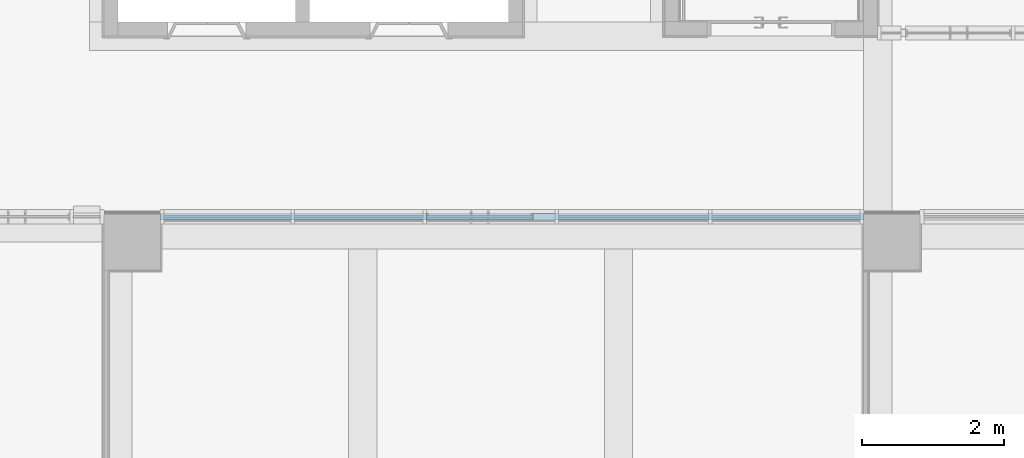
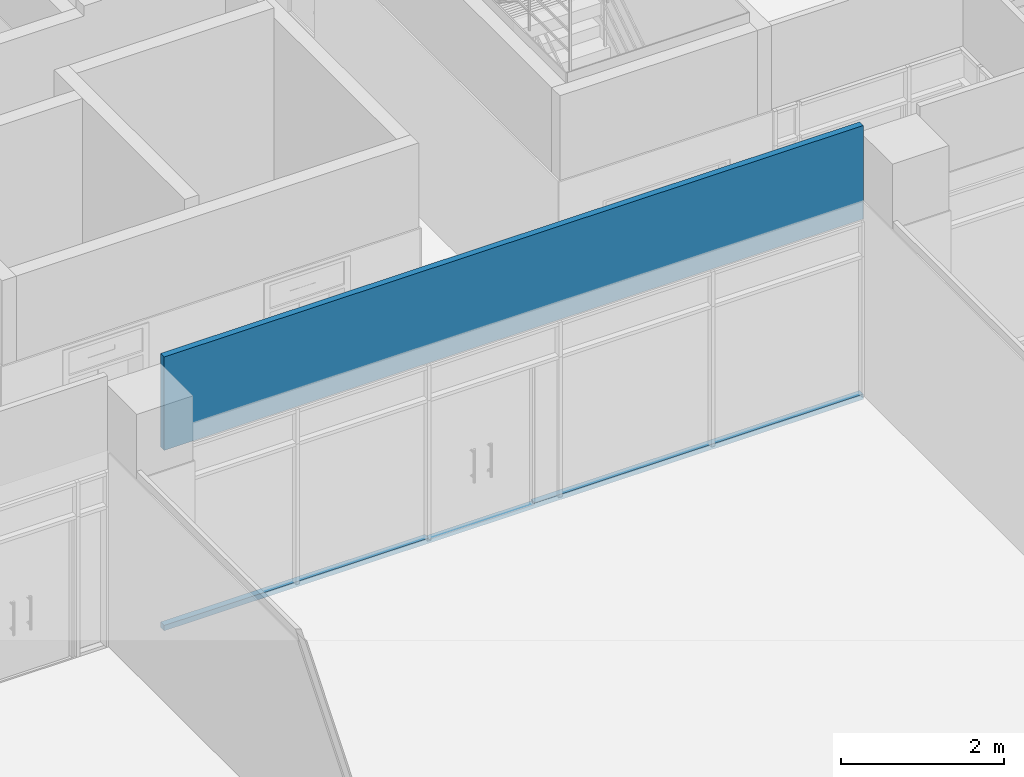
# One storey, part 46 of 76: 1 wall, 2 openings.
"""IFC2X3 building model written with IfcOpenShell, lengths in millimetres."""

from ifc_helpers import new_model, entity, si_unit, converted_unit, derived_unit, direction, frame, frame_2d, origin, place, context, subcontext, project, spatial, polyline, rectangle, outline, extrude, material, layer, layer_set, layer_usage, type_object, element, save


model = new_model("IFC2X3")

# Units and contexts
model_context = context("Model", 3, precision=0.01, world=origin(), true_north=direction((6.123031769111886e-17, 1.0)))
body_context = subcontext(model_context, "Body", "Model", "MODEL_VIEW")
ifc_project = project(units=[si_unit("LENGTHUNIT", "METRE", prefix="MILLI"), si_unit("AREAUNIT", "SQUARE_METRE"), si_unit("VOLUMEUNIT", "CUBIC_METRE"), converted_unit("PLANEANGLEUNIT", "DEGREE", entity("IfcRatioMeasure", 0.017453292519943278), si_unit("PLANEANGLEUNIT", "RADIAN"), dimensions=[0, 0, 0, 0, 0, 0, 0]), si_unit("MASSUNIT", "GRAM", prefix="KILO"), derived_unit("MASSDENSITYUNIT", [(si_unit("MASSUNIT", "GRAM", prefix="KILO"), 1), (si_unit("LENGTHUNIT", "METRE"), -3)]), derived_unit("MOMENTOFINERTIAUNIT", [(si_unit("LENGTHUNIT", "METRE"), 4)]), si_unit("TIMEUNIT", "SECOND"), si_unit("FREQUENCYUNIT", "HERTZ"), si_unit("THERMODYNAMICTEMPERATUREUNIT", "DEGREE_CELSIUS"), derived_unit("THERMALTRANSMITTANCEUNIT", [(si_unit("MASSUNIT", "GRAM", prefix="KILO"), 1), (si_unit("THERMODYNAMICTEMPERATUREUNIT", "KELVIN"), -1), (si_unit("TIMEUNIT", "SECOND"), -3)]), derived_unit("VOLUMETRICFLOWRATEUNIT", [(si_unit("LENGTHUNIT", "METRE"), 3), (si_unit("TIMEUNIT", "SECOND"), -1)]), derived_unit("MASSFLOWRATEUNIT", [(si_unit("MASSUNIT", "GRAM", prefix="KILO"), 1), (si_unit("TIMEUNIT", "SECOND"), -1)]), derived_unit("ROTATIONALFREQUENCYUNIT", [(si_unit("TIMEUNIT", "SECOND"), -1)]), si_unit("ELECTRICCURRENTUNIT", "AMPERE"), si_unit("ELECTRICVOLTAGEUNIT", "VOLT"), si_unit("POWERUNIT", "WATT"), si_unit("FORCEUNIT", "NEWTON", prefix="KILO"), si_unit("ILLUMINANCEUNIT", "LUX"), si_unit("LUMINOUSFLUXUNIT", "LUMEN"), si_unit("LUMINOUSINTENSITYUNIT", "CANDELA"), derived_unit("USERDEFINED", [(si_unit("MASSUNIT", "GRAM", prefix="KILO"), -1), (si_unit("LENGTHUNIT", "METRE"), -2), (si_unit("TIMEUNIT", "SECOND"), 3), (si_unit("LUMINOUSFLUXUNIT", "LUMEN"), 1)]), derived_unit("SOUNDPOWERUNIT", [(si_unit("MASSUNIT", "GRAM", prefix="KILO"), 1), (si_unit("LENGTHUNIT", "METRE"), 2), (si_unit("TIMEUNIT", "SECOND"), -3)]), derived_unit("SOUNDPRESSUREUNIT", [(si_unit("MASSUNIT", "GRAM", prefix="KILO"), 1), (si_unit("LENGTHUNIT", "METRE"), -1), (si_unit("TIMEUNIT", "SECOND"), -2)]), derived_unit("LINEARVELOCITYUNIT", [(si_unit("LENGTHUNIT", "METRE"), 1), (si_unit("TIMEUNIT", "SECOND"), -1)]), si_unit("PRESSUREUNIT", "PASCAL"), derived_unit("USERDEFINED", [(si_unit("LENGTHUNIT", "METRE"), -2), (si_unit("MASSUNIT", "GRAM", prefix="KILO"), 1), (si_unit("TIMEUNIT", "SECOND"), -2)]), derived_unit("LINEARFORCEUNIT", [(si_unit("MASSUNIT", "GRAM", prefix="KILO"), 1), (si_unit("LENGTHUNIT", "METRE"), 1), (si_unit("TIMEUNIT", "SECOND"), -2), (si_unit("LENGTHUNIT", "METRE"), -1)]), derived_unit("PLANARFORCEUNIT", [(si_unit("MASSUNIT", "GRAM", prefix="KILO"), 1), (si_unit("LENGTHUNIT", "METRE"), 1), (si_unit("TIMEUNIT", "SECOND"), -2), (si_unit("LENGTHUNIT", "METRE"), -2)])], contexts=[model_context])

# Site, building, storey
site_placement = place(None, frame((-14167.972527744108, -657.2125860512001, 0.0)))
site = spatial("IfcSite", under=ifc_project, at=site_placement, Name="Default", CompositionType="ELEMENT")
building_placement = place(site_placement, origin())
building = spatial("IfcBuilding", under=site, at=building_placement, Name="Sample Building", CompositionType="ELEMENT")
storey_placement = place(building_placement, frame((0.0, 0.0, 9300.0)))
storey = spatial("IfcBuildingStorey", under=building, at=storey_placement, Name="지상 3층", CompositionType="ELEMENT", Elevation=9300.000000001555)

# Wall, openings
ifc_material = material(Name="KBIMS-시멘트 벽돌")
ifc_layer = layer(ifc_material, 90.0)
ifc_layer_set = layer_set([ifc_layer], Name="기본 벽:WA211-시멘트벽돌(일반) 벽 (0.5B) 90mm")
ifc_layer_usage = layer_usage(ifc_layer_set, "AXIS2", "NEGATIVE", 45.0)
wall_type = type_object("IfcWallType", Name="기본 벽:WA211-시멘트벽돌(일반) 벽 (0.5B) 90mm", PredefinedType="STANDARD", material=ifc_layer_set)
wall_placement = place(storey_placement, frame((30867.95511434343, 13012.194878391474, -2.297844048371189e-09)))
wall = element("IfcWallStandardCase", 1, at=wall_placement, inside=storey, type_object=wall_type, material=ifc_layer_usage, Name="기본 벽:WA211-시멘트벽돌(일반) 벽 (0.5B) 90mm", ObjectType="기본 벽:WA211-시멘트벽돌(일반) 벽 (0.5B) 90mm", context=body_context, shape_type="SweptSolid", body=[
    extrude(rectangle(XDim=9900.017376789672, YDim=89.99999999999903, at=frame_2d((4950.008688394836, 1.552535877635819e-12), x_axis=(-1.0, 0.0))), origin(), (0.0, 0.0, 1.0), 4100.0000000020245),
])
opening_1_placement = place(wall_placement, origin())
element("IfcOpeningElement", 2, at=opening_1_placement, cuts=wall, Name="기본 벽:WA211-시멘트벽돌(일반) 벽 (0.5B) 90mm", ObjectType="Opening", context=body_context, shape_type="SweptSolid", body=[
    extrude(outline(polyline([(-1446.2500000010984, -5177.504344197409), (1173.7500000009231, -5177.504344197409), (1173.7500000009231, -522.5043441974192), (-901.2500000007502, -522.5043441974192), (-901.2500000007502, 977.495655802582), (1173.7500000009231, 977.495655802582), (1173.7500000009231, 4722.513032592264), (-1446.2500000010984, 4722.513032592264), (-1446.2500000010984, -5177.504344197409)])), frame((4722.513032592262, -197.39999999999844, 1253.7500000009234), z_axis=(0.0, 1.0, 0.0), x_axis=(0.0, 0.0, -1.0)), (0.0, 0.0, 1.0), 394.79999999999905),
])
opening_2_placement = place(wall_placement, frame((3745.0173767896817, -45.0, 55.0)))
element("IfcOpeningElement", 3, at=opening_2_placement, cuts=wall, Name="DR121-쌍여닫이문(철재, 일반, 양개):DR121-쌍여닫이문(유리, 일반, 양개) 1500x2100mm:1", ObjectType="Opening", context=body_context, shape_type="SweptSolid", body=[
    extrude(rectangle(XDim=2099.9999999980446, YDim=1500.0, at=frame_2d((1049.9999999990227, 750.0), x_axis=(1.0, 0.0))), frame((0.0, 0.0, 0.0), z_axis=(0.0, 1.0, 0.0), x_axis=(0.0, 0.0, 1.0)), (0.0, 0.0, 1.0), 90.0),
])

save(model, "model.ifc")
